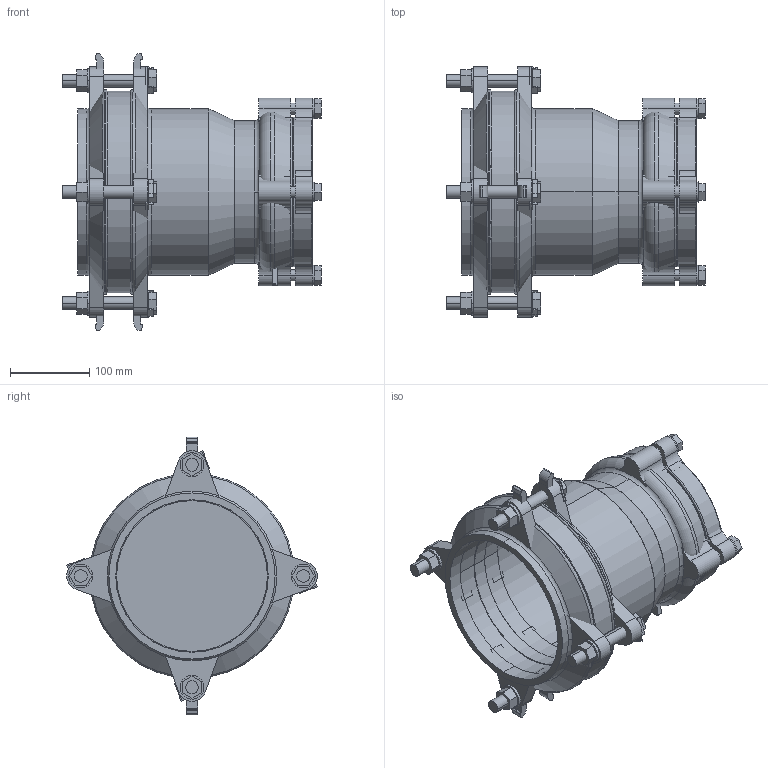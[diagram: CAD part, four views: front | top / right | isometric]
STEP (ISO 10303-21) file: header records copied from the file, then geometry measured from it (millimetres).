
FILE_DESCRIPTION(('STEP AP214'),'1');
FILE_NAME('MJB00049 DN150-PE160.STP','2015-02-06T10:49:32',(' '),(' '),'Spatial InterOp 3D',' ',' ');
FILE_SCHEMA(('automotive_design'));
Length unit declared in the file: millimetre
Products named in the file (64): 3D-Objekt
Bounding box: 326 x 315.52 x 350 mm (x, y, z)
Volume: 4197260.5 mm3; surface area: 853703.7 mm2
Topology: 64 solids, 64 shells, 484 faces, 1062 edges, 706 vertices
Faces by surface type: plane 311, cylinder 135, torus 24, cone 14
Entity records: 18712 total; most frequent: DIRECTION 2522, CARTESIAN_POINT 2316, ORIENTED_EDGE 2124, EDGE_CURVE 1062, AXIS2_PLACEMENT_3D 912, VERTEX_POINT 706, LINE 698, VECTOR 698
